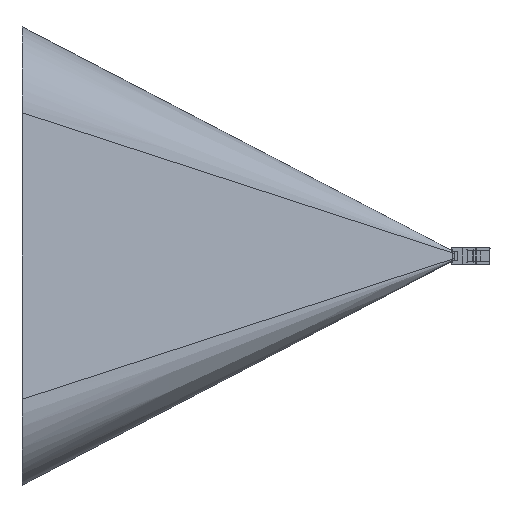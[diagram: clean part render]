
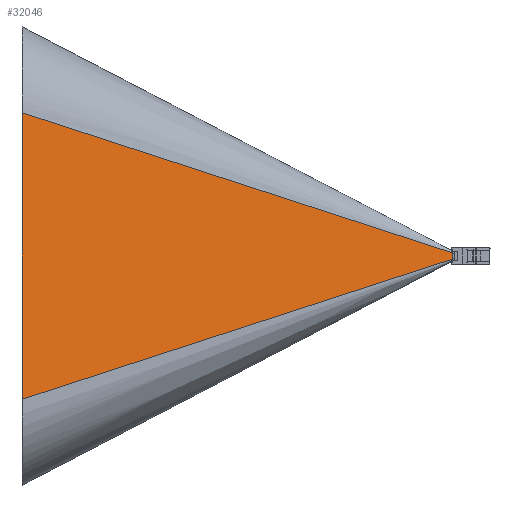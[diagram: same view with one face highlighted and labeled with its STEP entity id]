
A CAD part, left-side view. The second image highlights one B-rep face of the part: STEP entity #32046.
In plain terms, the highlighted planar face has unit normal (-0.877, -0.481, 0) as drawn and (-0.877, 0, 0.481) by its records, which use the part's own axes.
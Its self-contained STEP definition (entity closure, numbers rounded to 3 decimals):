
#31774=CARTESIAN_POINT('',(-84.55,50.,
-155.33));
#31812=DIRECTION('',(0.463,0.274,0.843));
#31813=VECTOR('',#31812,182.185);
#31814=CARTESIAN_POINT('',(-84.55,-50.,
-155.33));
#31815=LINE('',#31814,#31813);
#31816=DIRECTION('',(0.,-1.,0.));
#31817=VECTOR('',#31816,100.);
#31818=CARTESIAN_POINT('',(-84.55,50.,-155.33));
#31819=LINE('',#31818,#31817);
#31820=DIRECTION('',(-0.463,0.274,-0.843));
#31821=VECTOR('',#31820,182.185);
#31822=CARTESIAN_POINT('',(-0.25,0.05,-1.74));
#31823=LINE('',#31822,#31821);
#31824=DIRECTION('',(0.,1.,0.));
#31825=VECTOR('',#31824,0.1);
#31826=CARTESIAN_POINT('',(-0.25,-0.05,
-1.74));
#31827=LINE('',#31826,#31825);
#31860=CARTESIAN_POINT('',(-0.25,-0.05,-1.74));
#31868=CARTESIAN_POINT('',(-0.25,0.05,-1.74));
#31884=VERTEX_POINT('',#31774);
#31885=CARTESIAN_POINT('',(-84.55,-50.,
-155.33));
#31886=VERTEX_POINT('',#31885);
#31891=VERTEX_POINT('',#31860);
#31901=VERTEX_POINT('',#31868);
#32033=CARTESIAN_POINT('',(-42.4,0.,-78.535));
#32034=DIRECTION('',(0.877,0.,-0.481));
#32035=DIRECTION('',(0.,1.,0.));
#32036=AXIS2_PLACEMENT_3D('',#32033,#32034,#32035);
#32037=PLANE('',#32036);
#32039=ORIENTED_EDGE('',*,*,#32038,.F.);
#32040=ORIENTED_EDGE('',*,*,#31913,.F.);
#32041=ORIENTED_EDGE('',*,*,#32024,.F.);
#32043=ORIENTED_EDGE('',*,*,#32042,.F.);
#32044=EDGE_LOOP('',(#32039,#32040,#32041,#32043));
#32045=FACE_OUTER_BOUND('',#32044,.F.);
#32046=ADVANCED_FACE('',(#32045),#32037,.F.);
#31913=EDGE_CURVE('',#31884,#31886,#31819,.T.);
#32024=EDGE_CURVE('',#31901,#31884,#31823,.T.);
#32038=EDGE_CURVE('',#31886,#31891,#31815,.T.);
#32042=EDGE_CURVE('',#31891,#31901,#31827,.T.);
